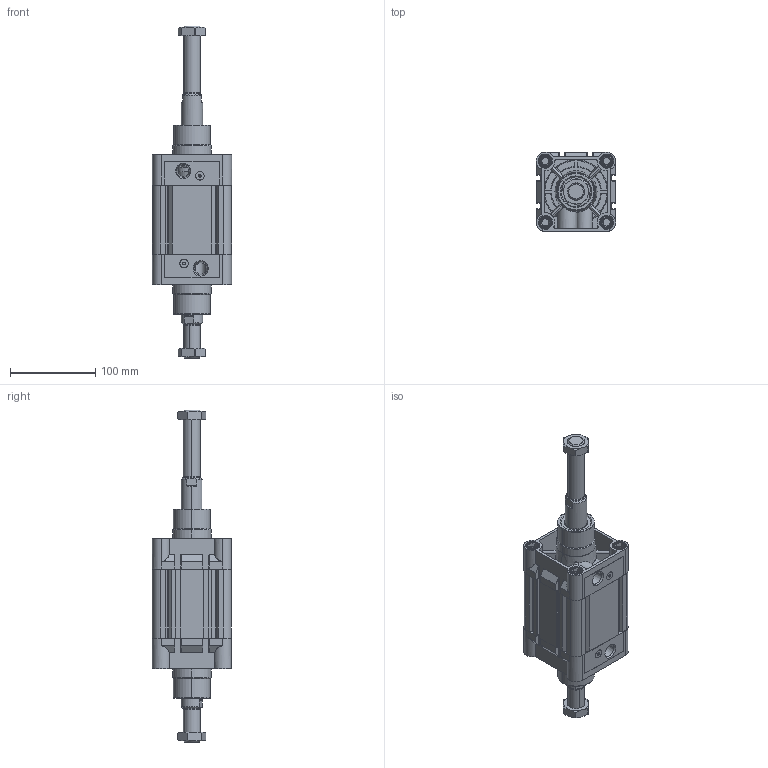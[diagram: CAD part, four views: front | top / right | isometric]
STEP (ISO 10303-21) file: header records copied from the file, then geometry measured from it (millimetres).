
FILE_DESCRIPTION (( 'STEP AP203' ), '1' );
FILE_NAME ('KDNC80X25CIFTMILLI-STROK AYARLI-CYLINDER.STEP', '2014-07-08T11:31:44', ( 'user' ), ( '' ), 'SwSTEP 2.0', 'SolidWorks 2013', '' );
FILE_SCHEMA (( 'CONFIG_CONTROL_DESIGN' ));
Length unit declared in the file: millimetre
Products named in the file (18): SOMUN 80; MIKNATIS 80; CIVATA 80; Piston Mili 80x25; SAPLAMALI M尳 STROK AYARLI 80x25; ORTA PÝSTON O-RÝNG 80 ; 烰 KAPAK  80; KDNC80X25CIFTMILLI-STROK AYARLI-CYLINDER; ﾖN MﾝL KEﾇESﾝ 80; YASTIKLAMA KEÇESÝ 80; KDNC 80x25 BORU; KAPAK O-RÝNGÝ 80; YASTIKLAMA VÝDASI 80; ORTA PÝSTON 80 ÇÝFT MÝLLÝ; YASTIKLAMA VÝDASI O-RÝNG 80; PÝSTON KEÇESÝ 80; PUL 80; YATAKLAMA BANDI 80
Assembly tree (35 placements, depth 2):
  KDNC80X25CIFTMILLI-STROK AYARLI-CYLINDER
    烰 KAPAK  80  x2
    YASTIKLAMA KEÇESÝ 80  x2
    KAPAK O-RÝNGÝ 80  x2
    ORTA PÝSTON 80 ÇÝFT MÝLLÝ
    PÝSTON KEÇESÝ 80  x2
    YATAKLAMA BANDI 80
    MIKNATIS 80  x2
    Piston Mili 80x25
    ORTA PÝSTON O-RÝNG 80   x2
    ﾖN MﾝL KEﾇESﾝ 80  x2
    KDNC 80x25 BORU
    YASTIKLAMA VÝDASI 80  x2
    YASTIKLAMA VÝDASI O-RÝNG 80  x2
    PUL 80  x2
    SOMUN 80  x2
    CIVATA 80  x8
    SAPLAMALI M尳 STROK AYARLI 80x25
Bounding box: 93 x 93.3 x 390 mm (x, y, z)
Volume: 953036.6 mm3; surface area: 372310.4 mm2
Topology: 37 solids, 37 shells, 1940 faces, 4736 edges, 2962 vertices
Faces by surface type: plane 664, cylinder 600, cone 486, torus 106, bspline 48, sphere 36
Entity records: 36207 total; most frequent: CARTESIAN_POINT 8642, DIRECTION 5435, ORIENTED_EDGE 5200, EDGE_CURVE 2600, AXIS2_PLACEMENT_3D 2139, VERTEX_POINT 1646, EDGE_LOOP 1168, VECTOR 1157
